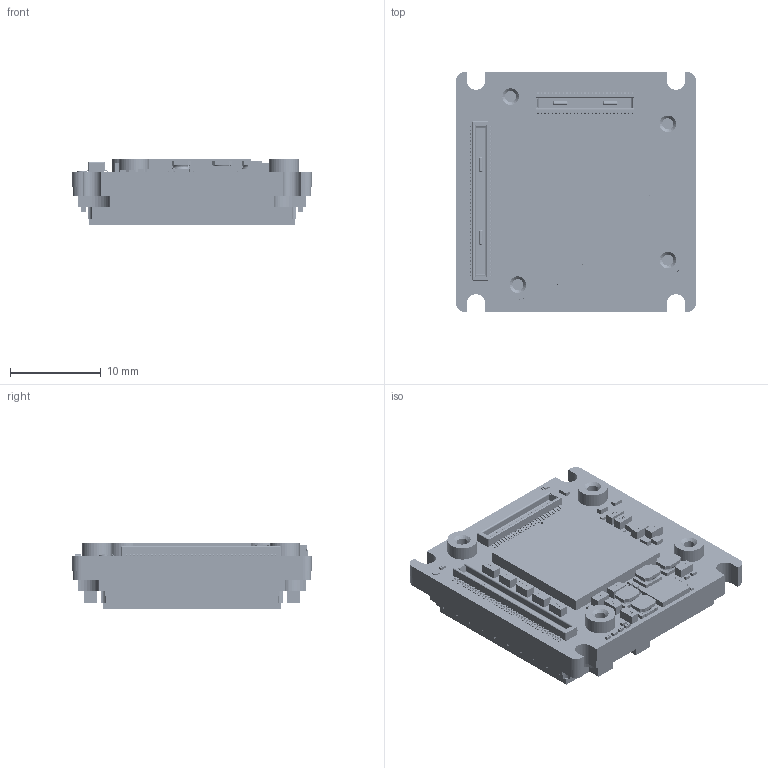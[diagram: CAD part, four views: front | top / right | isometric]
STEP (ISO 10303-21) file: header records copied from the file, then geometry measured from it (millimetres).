
FILE_DESCRIPTION (( 'STEP AP214' ), '1' );
FILE_NAME ('Alvium-Extended-Bare-Board-IMX23x20.STEP', '2022-12-21T14:14:10', ( '' ), ( '' ), 'SwSTEP 2.0', 'SolidWorks 2021', '' );
FILE_SCHEMA (( 'AUTOMOTIVE_DESIGN' ));
Length unit declared in the file: millimetre
Products named in the file (1): Alvium-Extended-Bare-Board-IMX23x20
Bounding box: 26.4 x 26.4 x 7.34 mm (x, y, z)
Volume: 3750.5 mm3; surface area: 5353.4 mm2
Topology: 145 solids, 145 shells, 9908 faces, 25290 edges, 16628 vertices
Faces by surface type: plane 4996, bspline 3656, cylinder 1192, torus 40, cone 24
Entity records: 617000 total; most frequent: CARTESIAN_POINT 289999, ORIENTED_EDGE 50564, DIRECTION 32820, EDGE_CURVE 25282, VERTEX_POINT 16628, LINE 15434, VECTOR 15434, EDGE_LOOP 10880
